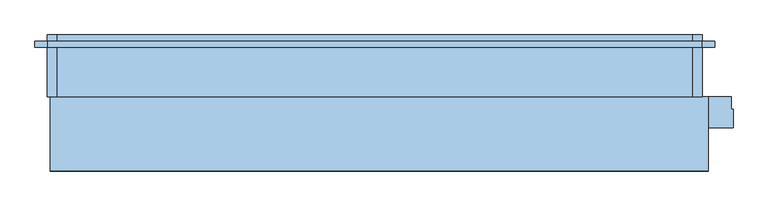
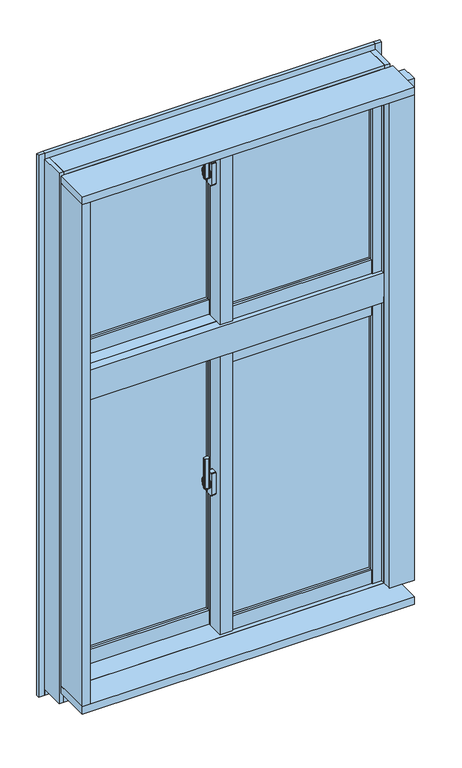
"""IFC4 building model written with IfcOpenShell, lengths in millimetres: window geometry, FNSⅡ100R_個別防火_面付枠_段窓 : 引違/引違."""

from ifc_helpers import new_model, si_unit, point, frame, frame_2d, origin, place, context, project, spatial, polyline, circle_curve, trimmed, segment, composite_curve, outline, extrude, faceted_brep, source, transform, mapped, element, save
from ifc_brep_helpers import plane_surface, cylinder_surface, revolved_surface, advanced_brep


def window_d672795f(model_context):
    return source(origin(), model_context, "Body", "SolidModel", [
        extrude(outline(composite_curve([segment(polyline([(-39.0, 34.6), (-39.0, 26.4)]), True, "CONTINUOUS"), segment(trimmed(circle_curve(frame_2d((-41.0, 26.4)), 2.0), [point((-39.0, 26.4))], [point((-41.3606557, 24.4327869))], False, "CARTESIAN"), True, "CONTINUOUS"), segment(polyline([(-41.3606557, 24.4327869), (-52.3606557, 26.4494536)]), True, "CONTINUOUS"), segment(trimmed(circle_curve(frame_2d((-52.0, 28.4166667)), 2.0), [point((-52.3606557, 26.4494536))], [point((-54.0, 28.4166667))], False, "CARTESIAN"), True, "CONTINUOUS"), segment(polyline([(-54.0, 28.4166667), (-54.0, 32.5833333)]), True, "CONTINUOUS"), segment(trimmed(circle_curve(frame_2d((-52.0, 32.5833333)), 2.0), [point((-54.0, 32.5833333))], [point((-52.3606557, 34.5505464))], False, "CARTESIAN"), True, "CONTINUOUS"), segment(polyline([(-52.3606557, 34.5505464), (-41.3606557, 36.5672131)]), True, "CONTINUOUS"), segment(trimmed(circle_curve(frame_2d((-41.0, 34.6)), 2.0), [point((-41.3606557, 36.5672131))], [point((-39.0, 34.6))], False, "CARTESIAN"), True, "CONTINUOUS")], self_intersect=False)), frame((0.0, 0.0, 2440.0), z_axis=(0.0, 0.0, 1.0), x_axis=(1.0, 0.0, 0.0)), (0.0, 0.0, 1.0), 100.0),
        advanced_brep(
        [(-37.5, 38.8234285, 2471.7333311), (-45.5, 38.8234285, 2471.7333311), (-45.5, 38.4351999, 2470.2844424), (-39.0, 38.4351999, 2470.2844424), (-39.0, 36.6234666, 2463.5229616), (-37.5, 36.6234666, 2463.5229616), (-39.0, 36.6466117, 2429.3190372), (-45.5, 36.6466117, 2429.3190372), (-45.5, 36.907084, 2427.8418256), (-37.5, 36.907084, 2427.8418256), (-37.5, 35.4310745, 2436.2126915), (-39.0, 35.4310745, 2436.2126915)],
        [
            (0, 1),
            (1, 2),
            (2, 3),
            (3, 4),
            (4, 5),
            (5, 0),
            (6, 7),
            (7, 8),
            (8, 9),
            (9, 10),
            (10, 11),
            (11, 6),
            (0, 9, circle_curve(frame((-37.5, 33.0, 2450.0), z_axis=(-1.0, 0.0, 0.0), x_axis=(0.0, 0.25881904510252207, 0.965925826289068)), 22.5)),
            (8, 1, circle_curve(frame((-45.5, 33.0, 2450.0), z_axis=(1.0, 0.0, 0.0), x_axis=(0.0, 0.25881904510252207, 0.965925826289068)), 22.5)),
            (7, 2, circle_curve(frame((-45.5, 33.0, 2450.0), z_axis=(1.0, 0.0, 0.0), x_axis=(0.0, 0.25881904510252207, 0.965925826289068)), 21.0)),
            (6, 3, circle_curve(frame((-39.0, 33.0, 2450.0), z_axis=(1.0, 0.0, 0.0), x_axis=(0.0, 0.25881904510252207, 0.965925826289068)), 21.0)),
            (11, 4, circle_curve(frame((-39.0, 33.0, 2450.0), z_axis=(-1.0, 0.0, 0.0), x_axis=(0.0, -1.0, 0.0)), 14.0)),
            (5, 10, circle_curve(frame((-37.5, 33.0, 2450.0), z_axis=(1.0, 0.0, 0.0), x_axis=(0.0, -1.0, 0.0)), 14.0)),
        ],
        [
            plane_surface(frame((-43.5470497, 33.0, 2450.0), z_axis=(0.0, -0.965925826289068, 0.25881904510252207), x_axis=(0.0, 0.25881904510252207, 0.965925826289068))),
            plane_surface(frame((-43.5470497, 33.0, 2450.0), z_axis=(0.0, -0.9848077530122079, -0.17364817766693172), x_axis=(0.0, 0.17364817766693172, -0.9848077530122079))),
            cylinder_surface(frame((-43.5470497, 33.0, 2450.0), z_axis=(-1.0, 0.0, 0.0), x_axis=(0.0, 0.25881904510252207, 0.965925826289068)), 22.5),
            plane_surface(frame((-45.5, 33.0, 2450.0), z_axis=(-1.0, 0.0, 0.0), x_axis=(0.0, 0.25881904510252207, 0.965925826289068))),
            revolved_surface(polyline([(-45.5, 38.43519994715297, 2470.2844423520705), (-39.0, 38.43519994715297, 2470.2844423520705)]), (-43.5470497, 33.0, 2450.0), (-1.0, 0.0, 0.0)),
            plane_surface(frame((-39.0, 33.0, 2450.0), z_axis=(-1.0, 0.0, 0.0), x_axis=(0.0, 0.25881904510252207, 0.965925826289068))),
            plane_surface(frame((-37.5, 33.0, 2450.0), z_axis=(1.0, 0.0, 0.0), x_axis=(0.0, 0.25881904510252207, 0.965925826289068))),
            cylinder_surface(frame((-37.5, 33.0, 2450.0), z_axis=(-1.0, 0.0, 0.0), x_axis=(0.0, -1.0, 0.0)), 14.0),
        ],
        [
            (0, [[1, 2, 3, 4, 5, 6]]),
            (1, [[7, 8, 9, 10, 11, 12]]),
            (2, [[-1, 13, -9, 14]]),
            (3, [[-2, -14, -8, 15]]),
            (4, [[-3, -15, -7, 16]]),
            (5, [[-16, -12, 17, -4]]),
            (6, [[-13, -6, 18, -10]]),
            (7, [[-17, -11, -18, -5]]),
        ],
    ),
        extrude(outline(composite_curve([segment(trimmed(circle_curve(frame_2d((33.0, 2450.0)), 11.5), [point((44.5, 2450.0))], [point((21.5, 2450.0))], False, "CARTESIAN"), True, "CONTINUOUS"), segment(trimmed(circle_curve(frame_2d((33.0, 2450.0)), 11.5), [point((21.5, 2450.0))], [point((44.5, 2450.0))], False, "CARTESIAN"), True, "CONTINUOUS")], self_intersect=False)), frame((-37.5, 0.0, 0.0), z_axis=(1.0, 0.0, 0.0), x_axis=(0.0, 1.0, 0.0)), (0.0, 0.0, 1.0), 2.5),
        extrude(outline(composite_curve([segment(polyline([(24.0, 2487.5), (42.0, 2487.5)]), True, "CONTINUOUS"), segment(trimmed(circle_curve(frame_2d((42.0, 2485.5)), 2.0), [point((42.0, 2487.5))], [point((44.0, 2485.5))], False, "CARTESIAN"), True, "CONTINUOUS"), segment(polyline([(44.0, 2485.5), (44.0, 2414.5)]), True, "CONTINUOUS"), segment(trimmed(circle_curve(frame_2d((42.0, 2414.5)), 2.0), [point((44.0, 2414.5))], [point((42.0, 2412.5))], False, "CARTESIAN"), True, "CONTINUOUS"), segment(polyline([(42.0, 2412.5), (24.0, 2412.5)]), True, "CONTINUOUS"), segment(trimmed(circle_curve(frame_2d((24.0, 2414.5)), 2.0), [point((24.0, 2412.5))], [point((22.0, 2414.5))], False, "CARTESIAN"), True, "CONTINUOUS"), segment(polyline([(22.0, 2414.5), (22.0, 2485.5)]), True, "CONTINUOUS"), segment(trimmed(circle_curve(frame_2d((24.0, 2485.5)), 2.0), [point((22.0, 2485.5))], [point((24.0, 2487.5))], False, "CARTESIAN"), True, "CONTINUOUS")], self_intersect=False)), frame((-35.0, 0.0, 0.0), z_axis=(1.0, 0.0, 0.0), x_axis=(0.0, 1.0, 0.0)), (0.0, 0.0, 1.0), 15.0),
        extrude(outline(polyline([(20.0, 24.0), (468.0, 24.0), (468.0, 18.0), (20.0, 18.0), (20.0, 24.0)])), frame((0.0, 0.0, 1998.0), z_axis=(0.0, 0.0, 1.0), x_axis=(1.0, 0.0, 0.0)), (0.0, 0.0, 1.0), 562.0),
        extrude(outline(polyline([(20.0, 42.0), (468.0, 42.0), (468.0, 36.0), (20.0, 36.0), (20.0, 42.0)])), frame((0.0, 0.0, 1998.0), z_axis=(0.0, 0.0, 1.0), x_axis=(1.0, 0.0, 0.0)), (0.0, 0.0, 1.0), 562.0),
        extrude(outline(polyline([(-468.0, 82.0), (-20.0, 82.0), (-20.0, 76.0), (-468.0, 76.0), (-468.0, 82.0)])), frame((0.0, 0.0, 1998.0), z_axis=(0.0, 0.0, 1.0), x_axis=(1.0, 0.0, 0.0)), (0.0, 0.0, 1.0), 562.0),
        extrude(outline(polyline([(-468.0, 100.0), (-20.0, 100.0), (-20.0, 94.0), (-468.0, 94.0), (-468.0, 100.0)])), frame((0.0, 0.0, 1998.0), z_axis=(0.0, 0.0, 1.0), x_axis=(1.0, 0.0, 0.0)), (0.0, 0.0, 1.0), 562.0),
        faceted_brep([(-500.0, 79.0, 2600.0), (-489.5, 79.0, 2600.0), (-489.5, 66.0, 2600.0), (-468.0, 66.0, 2600.0), (-468.0, 108.0, 2600.0), (-500.0, 108.0, 2600.0), (-468.0, 79.0, 1910.0), (-500.0, 79.0, 1910.0), (-500.0, 108.0, 1910.0), (-468.0, 108.0, 1910.0), (-468.0, 79.0, 1950.0), (-489.5, 79.0, 1950.0), (-489.5, 66.0, 1950.0), (-468.0, 66.0, 1950.0)], [[[0, 1, 2, 3, 4, 5]], [[6, 7, 8, 9]], [[1, 0, 7, 6, 10, 11]], [[2, 1, 11, 12]], [[3, 2, 12, 13]], [[4, 3, 13, 10, 6, 9]], [[5, 4, 9, 8]], [[7, 0, 5, 8]], [[11, 10, 13, 12]]]),
        faceted_brep([(-20.0, 65.5, 2600.0), (-1.8, 65.5, 2600.0), (-1.8, 53.1, 2600.0), (20.0, 53.1, 2600.0), (20.0, 108.0, 2600.0), (-20.0, 108.0, 2600.0), (-20.0, 108.0, 1910.0), (20.0, 108.0, 1910.0), (20.0, 79.0, 1910.0), (-20.0, 79.0, 1910.0), (-20.0, 65.5, 1950.0), (-1.8, 65.5, 1950.0), (-1.8, 53.1, 1950.0), (20.0, 53.1, 1950.0), (20.0, 79.0, 1950.0), (-20.0, 79.0, 1950.0)], [[[0, 1, 2, 3, 4, 5]], [[6, 7, 8, 9]], [[1, 0, 10, 11]], [[2, 1, 11, 12]], [[3, 2, 12, 13]], [[4, 3, 13, 14, 8, 7]], [[5, 4, 7, 6]], [[0, 5, 6, 9, 15, 10]], [[14, 15, 9, 8]], [[15, 14, 13, 12, 11, 10]]]),
        extrude(outline(polyline([(-20.0, 53.1), (-15.0, 53.1), (-15.0, 8.0), (15.0, 8.0), (15.0, 12.0), (20.0, 12.0), (20.0, 0.0), (-20.0, 0.0), (-20.0, 53.1)])), frame((0.0, 0.0, 1950.0), z_axis=(0.0, 0.0, 1.0), x_axis=(1.0, 0.0, 0.0)), (0.0, 0.0, 1.0), 650.0),
        extrude(outline(polyline([(-15.0, 53.1), (20.0, 53.1), (20.0, 12.0), (15.0, 12.0), (15.0, 8.0), (-15.0, 8.0), (-15.0, 53.1)])), frame((0.0, 0.0, 1950.0), z_axis=(0.0, 0.0, 1.0), x_axis=(1.0, 0.0, 0.0)), (0.0, 0.0, 1.0), 650.0),
        extrude(outline(polyline([(468.0, 0.0), (468.0, 8.0), (489.5, 8.0), (489.5, 21.0), (497.0, 21.0), (497.0, 0.0), (468.0, 0.0)])), frame((0.0, 0.0, 1953.0), z_axis=(0.0, 0.0, 1.0), x_axis=(1.0, 0.0, 0.0)), (0.0, 0.0, 1.0), 647.0),
        extrude(outline(polyline([(468.0, 50.0), (500.0, 50.0), (500.0, 21.0), (489.5, 21.0), (489.5, 8.0), (468.0, 8.0), (468.0, 50.0)])), frame((0.0, 0.0, 1950.0), z_axis=(0.0, 0.0, 1.0), x_axis=(1.0, 0.0, 0.0)), (0.0, 0.0, 1.0), 650.0),
        extrude(outline(polyline([(-1.85, 65.5), (-1.85, 58.0), (-20.0, 58.0), (-20.0, 65.5), (-1.85, 65.5)])), frame((0.0, 0.0, 1950.0), z_axis=(0.0, 0.0, 1.0), x_axis=(1.0, 0.0, 0.0)), (0.0, 0.0, 1.0), 650.0),
        extrude(outline(polyline([(-497.0, 79.0), (-489.5, 79.0), (-489.5, 66.0), (-468.0, 66.0), (-468.0, 58.0), (-497.0, 58.0), (-497.0, 79.0)])), frame((0.0, 0.0, 1950.0), z_axis=(0.0, 0.0, 1.0), x_axis=(1.0, 0.0, 0.0)), (0.0, 0.0, 1.0), 650.0),
        extrude(outline(polyline([(2.0, 1953.0), (2.0, 1998.0), (10.0, 1998.0), (10.0, 1975.5), (21.0, 1975.5), (21.0, 1953.0), (2.0, 1953.0)])), frame((20.0, 0.0, 0.0), z_axis=(1.0, 0.0, 0.0), x_axis=(0.0, 1.0, 0.0)), (0.0, 0.0, 1.0), 448.0),
        extrude(outline(polyline([(50.0, 1950.0), (21.0, 1950.0), (21.0, 1975.5), (10.0, 1975.5), (10.0, 1998.0), (50.0, 1998.0), (50.0, 1950.0)])), frame((20.0, 0.0, 0.0), z_axis=(1.0, 0.0, 0.0), x_axis=(0.0, 1.0, 0.0)), (0.0, 0.0, 1.0), 448.0),
        extrude(outline(polyline([(60.0, 1998.0), (68.0, 1998.0), (68.0, 1975.5), (79.0, 1975.5), (79.0, 1950.0), (60.0, 1950.0), (60.0, 1998.0)])), frame((-468.0, 0.0, 0.0), z_axis=(1.0, 0.0, 0.0), x_axis=(0.0, 1.0, 0.0)), (0.0, 0.0, 1.0), 448.0),
        extrude(outline(polyline([(108.0, 1910.0), (79.0, 1910.0), (79.0, 1975.5), (68.0, 1975.5), (68.0, 1998.0), (108.0, 1998.0), (108.0, 1910.0)])), frame((-468.0, 0.0, 0.0), z_axis=(1.0, 0.0, 0.0), x_axis=(0.0, 1.0, 0.0)), (0.0, 0.0, 1.0), 448.0),
        extrude(outline(polyline([(23.0, 2580.5), (10.0, 2580.5), (10.0, 2560.0), (2.0, 2560.0), (2.0, 2600.0), (23.0, 2600.0), (23.0, 2580.5)])), frame((20.0, 0.0, 0.0), z_axis=(1.0, 0.0, 0.0), x_axis=(0.0, 1.0, 0.0)), (0.0, 0.0, 1.0), 448.0),
        extrude(outline(polyline([(50.0, 2600.0), (50.0, 2560.0), (10.0, 2560.0), (10.0, 2580.5), (23.0, 2580.5), (23.0, 2600.0), (50.0, 2600.0)])), frame((20.0, 0.0, 0.0), z_axis=(1.0, 0.0, 0.0), x_axis=(0.0, 1.0, 0.0)), (0.0, 0.0, 1.0), 448.0),
        extrude(outline(polyline([(81.0, 2580.5), (68.0, 2580.5), (68.0, 2560.0), (60.0, 2560.0), (60.0, 2600.0), (81.0, 2600.0), (81.0, 2580.5)])), frame((-468.0, 0.0, 0.0), z_axis=(1.0, 0.0, 0.0), x_axis=(0.0, 1.0, 0.0)), (0.0, 0.0, 1.0), 448.0),
        extrude(outline(polyline([(108.0, 2600.0), (108.0, 2560.0), (68.0, 2560.0), (68.0, 2580.5), (81.0, 2580.5), (81.0, 2600.0), (108.0, 2600.0)])), frame((-468.0, 0.0, 0.0), z_axis=(1.0, 0.0, 0.0), x_axis=(0.0, 1.0, 0.0)), (0.0, 0.0, 1.0), 448.0),
        faceted_brep([(500.0, -10.0, 900.0), (500.0, 14.5, 900.0), (515.0, 14.5, 900.0), (515.0, 10.0, 900.0), (503.0, 10.0, 900.0), (503.0, -10.0, 900.0), (500.0, -10.0, 1870.0), (500.0, 14.5, 1870.0), (515.0, 14.5, 1870.0), (515.0, 10.0, 1870.0), (503.0, 10.0, 1870.0), (503.0, -10.0, 1870.0)], [[[0, 1, 2, 3, 4, 5]], [[1, 0, 6, 7]], [[2, 1, 7, 8]], [[3, 2, 8, 9]], [[4, 3, 9, 10]], [[5, 4, 10, 11]], [[0, 5, 11, 6]], [[6, 11, 10, 9, 8, 7]]]),
        faceted_brep([(500.0, 10.0, 2620.0), (500.0, 14.5, 2620.0), (500.0, 14.5, 1950.0), (500.0, -10.0, 1950.0), (500.0, -10.0, 2603.0), (500.0, 10.0, 2603.0), (515.0, 14.5, 2620.0), (515.0, 14.5, 1950.0), (515.0, 10.0, 2620.0), (515.0, 10.0, 1950.0), (503.0, 10.0, 2603.0), (503.0, 10.0, 1950.0), (503.0, -10.0, 2603.0), (503.0, -10.0, 1950.0)], [[[0, 1, 2, 3, 4, 5]], [[1, 6, 7, 2]], [[6, 8, 9, 7]], [[5, 10, 11, 9, 8, 0]], [[10, 12, 13, 11]], [[12, 4, 3, 13]], [[8, 6, 1, 0]], [[10, 5, 4, 12]], [[13, 3, 2, 7, 9, 11]]]),
        faceted_brep([(515.0, 110.0, 840.0), (515.0, 110.0, 849.0), (515.0, 76.0, 849.0), (515.0, 76.0, 884.0), (515.0, 10.0, 884.0), (515.0, 10.0, 840.0), (-515.0, 110.0, 840.0), (-515.0, 110.0, 849.0), (-515.0, 76.0, 849.0), (-515.0, 76.0, 884.0), (-515.0, 10.0, 884.0), (500.0, 37.25, 884.0), (500.0, 18.8, 884.0), (-15.0, 18.8, 884.0), (-15.0, 37.25, 884.0), (-515.0, 10.0, 840.0), (500.0, 18.8, 900.0), (500.0, 37.25, 900.0), (-15.0, 18.8, 900.0), (-15.0, 37.25, 900.0)], [[[0, 1, 2, 3, 4, 5]], [[1, 0, 6, 7]], [[2, 1, 7, 8]], [[3, 2, 8, 9]], [[4, 3, 9, 10], [11, 12, 13, 14]], [[5, 4, 10, 15]], [[0, 5, 15, 6]], [[6, 15, 10, 9, 8, 7]], [[16, 12, 11, 17]], [[12, 16, 18, 13]], [[18, 19, 14, 13]], [[17, 11, 14, 19]], [[16, 17, 19, 18]]]),
        faceted_brep([(500.0, 18.8, 1950.0), (500.0, 18.8, 1934.0), (500.0, 37.25, 1934.0), (500.0, 37.25, 1950.0), (-15.0, 18.8, 1950.0), (-15.0, 37.25, 1950.0), (-15.0, 37.25, 1934.0), (-15.0, 18.8, 1934.0)], [[[0, 1, 2, 3]], [[4, 5, 6, 7]], [[1, 0, 4, 7]], [[2, 1, 7, 6]], [[3, 2, 6, 5]], [[0, 3, 5, 4]]]),
        faceted_brep([(-515.0, 10.0, 900.0), (-515.0, 76.0, 900.0), (-500.0, 76.0, 900.0), (-500.0, -10.0, 900.0), (-503.0, -10.0, 900.0), (-503.0, 10.0, 900.0), (-515.0, 10.0, 1870.0), (-515.0, 76.0, 1870.0), (-500.0, 76.0, 1870.0), (-500.0, -10.0, 1870.0), (-503.0, -10.0, 1870.0), (-503.0, 10.0, 1870.0)], [[[0, 1, 2, 3, 4, 5]], [[1, 0, 6, 7]], [[2, 1, 7, 8]], [[3, 2, 8, 9]], [[4, 3, 9, 10]], [[5, 4, 10, 11]], [[0, 5, 11, 6]], [[6, 11, 10, 9, 8, 7]]]),
        faceted_brep([(-515.0, 10.0, 2620.0), (-515.0, 76.0, 2620.0), (-515.0, 76.0, 1950.0), (-515.0, 10.0, 1950.0), (-500.0, 76.0, 2620.0), (-500.0, 76.0, 1950.0), (-500.0, 10.0, 2620.0), (-500.0, 10.0, 2603.0), (-500.0, -10.0, 2603.0), (-500.0, -10.0, 1950.0), (-503.0, -10.0, 2603.0), (-503.0, -10.0, 1950.0), (-503.0, 10.0, 2603.0), (-503.0, 10.0, 1950.0)], [[[0, 1, 2, 3]], [[1, 4, 5, 2]], [[4, 6, 7, 8, 9, 5]], [[8, 10, 11, 9]], [[10, 12, 13, 11]], [[12, 7, 6, 0, 3, 13]], [[4, 1, 0, 6]], [[7, 12, 10, 8]], [[13, 3, 2, 5, 9, 11]]]),
        faceted_brep([(-530.0, 110.0, 840.0), (-515.0, 110.0, 840.0), (-515.0, 10.0, 840.0), (-530.0, 10.0, 840.0), (-530.0, 110.0, 2635.0), (-515.0, 110.0, 2635.0), (-515.0, 110.0, 2600.0), (-500.0, 110.0, 2600.0), (-500.0, 110.0, 1899.0), (-515.0, 110.0, 1899.0), (-515.0, 110.0, 1850.0), (-500.0, 110.0, 1850.0), (-500.0, 110.0, 849.0), (-515.0, 110.0, 849.0), (-515.0, 10.0, 2635.0), (-515.0, 76.0, 849.0), (-515.0, 76.0, 1850.0), (-515.0, 76.0, 1899.0), (-515.0, 76.0, 2600.0), (-530.0, 10.0, 2635.0), (-500.0, 76.0, 849.0), (-500.0, 76.0, 1850.0), (-500.0, 76.0, 2600.0), (-500.0, 76.0, 1899.0)], [[[0, 1, 2, 3]], [[4, 5, 6, 7, 8, 9, 10, 11, 12, 13, 1, 0]], [[5, 14, 2, 1, 13, 15, 16, 10, 9, 17, 18, 6]], [[14, 19, 3, 2]], [[19, 4, 0, 3]], [[12, 20, 15, 13]], [[21, 16, 15, 20]], [[11, 21, 20, 12]], [[4, 19, 14, 5]], [[11, 10, 16, 21]], [[7, 6, 18, 22]], [[8, 23, 17, 9]], [[22, 18, 17, 23]], [[7, 22, 23, 8]]]),
        faceted_brep([(515.0, 10.0, 840.0), (515.0, 110.0, 840.0), (530.0, 110.0, 840.0), (530.0, 10.0, 840.0), (515.0, 10.0, 2635.0), (515.0, 110.0, 2635.0), (515.0, 110.0, 2600.0), (515.0, 14.5, 2600.0), (515.0, 14.5, 1899.0), (515.0, 110.0, 1899.0), (515.0, 110.0, 1850.0), (515.0, 14.5, 1850.0), (515.0, 14.5, 849.0), (515.0, 110.0, 849.0), (530.0, 110.0, 2635.0), (500.0, 110.0, 849.0), (500.0, 110.0, 1850.0), (500.0, 110.0, 1899.0), (500.0, 110.0, 2600.0), (530.0, 10.0, 2635.0), (500.0, 14.5, 849.0), (500.0, 14.5, 1850.0), (500.0, 14.5, 2600.0), (500.0, 14.5, 1899.0)], [[[0, 1, 2, 3]], [[4, 5, 6, 7, 8, 9, 10, 11, 12, 13, 1, 0]], [[5, 14, 2, 1, 13, 15, 16, 10, 9, 17, 18, 6]], [[14, 19, 3, 2]], [[19, 4, 0, 3]], [[20, 15, 13, 12]], [[21, 16, 15, 20]], [[11, 21, 20, 12]], [[4, 19, 14, 5]], [[21, 11, 10, 16]], [[22, 7, 6, 18]], [[23, 17, 9, 8]], [[7, 22, 23, 8]], [[22, 18, 17, 23]]]),
        faceted_brep([(503.0, -10.0, 900.0), (503.0, -10.0, 897.0), (503.0, 10.0, 897.0), (503.0, 10.0, 884.0), (503.0, 14.5, 884.0), (503.0, 14.5, 900.0), (-503.0, 10.0, 884.0), (-503.0, 10.0, 897.0), (-503.0, -10.0, 897.0), (-503.0, -10.0, 900.0), (-503.0, 18.8, 900.0), (-503.0, 18.8, 884.0), (500.0, 14.5, 900.0), (500.0, 18.8, 900.0), (-15.0, 18.8, 900.0), (-15.0, 76.0, 900.0), (-500.0, 76.0, 900.0), (-500.0, 18.8, 900.0), (-500.0, 18.8, 884.0), (500.0, 18.8, 884.0), (-15.0, 18.8, 884.0), (-500.0, 76.0, 884.0), (-15.0, 76.0, 884.0), (500.0, 14.5, 884.0)], [[[0, 1, 2, 3, 4, 5]], [[6, 7, 8, 9, 10, 11]], [[3, 2, 7, 6]], [[2, 1, 8, 7]], [[1, 0, 9, 8]], [[10, 9, 0, 5, 12, 13, 14, 15, 16, 17]], [[11, 10, 17, 18]], [[13, 19, 20, 14]], [[6, 11, 18, 21, 22, 20, 19, 23, 4, 3]], [[12, 23, 19, 13]], [[23, 12, 5, 4]], [[15, 14, 20, 22]], [[16, 21, 18, 17]], [[15, 22, 21, 16]]]),
        faceted_brep([(500.0, 31.9, 2600.0), (500.0, 31.9, 2625.0), (500.0, 10.0, 2625.0), (500.0, 10.0, 2603.0), (500.0, -10.0, 2603.0), (500.0, -10.0, 2600.0), (-500.0, 31.9, 2600.0), (-500.0, -10.0, 2600.0), (-500.0, -10.0, 2603.0), (-500.0, 10.0, 2603.0), (-500.0, 10.0, 2625.0), (-500.0, 31.9, 2625.0)], [[[0, 1, 2, 3, 4, 5]], [[6, 7, 8, 9, 10, 11]], [[1, 0, 6, 11]], [[2, 1, 11, 10]], [[3, 2, 10, 9]], [[4, 3, 9, 8]], [[5, 4, 8, 7]], [[0, 5, 7, 6]]]),
        faceted_brep([(500.0, 31.9, 1875.0), (500.0, 10.0, 1875.0), (500.0, 10.0, 1934.0), (500.0, 18.8, 1934.0), (500.0, 18.8, 1950.0), (500.0, -10.0, 1950.0), (500.0, -10.0, 1870.0), (500.0, -10.0, 1850.0), (500.0, 31.9, 1850.0), (500.0, 31.9, 1870.0), (-500.0, 31.9, 1850.0), (-500.0, -10.0, 1850.0), (-500.0, -10.0, 1870.0), (-500.0, -10.0, 1950.0), (-500.0, 18.8, 1950.0), (-500.0, 18.8, 1934.0), (-500.0, 10.0, 1934.0), (-500.0, 10.0, 1875.0), (-500.0, 31.9, 1875.0), (-500.0, 31.9, 1870.0)], [[[0, 1, 2, 3, 4, 5, 6, 7, 8, 9]], [[10, 11, 12, 13, 14, 15, 16, 17, 18, 19]], [[8, 10, 19, 18, 0, 9]], [[1, 0, 18, 17]], [[5, 13, 12, 11, 7, 6]], [[8, 7, 11, 10]], [[2, 1, 17, 16]], [[3, 2, 16, 15]], [[4, 3, 15, 14]], [[5, 4, 14, 13]]]),
        extrude(outline(polyline([(-15.0, 80.3), (-15.0, 31.9), (-500.0, 31.9), (-500.0, 80.3), (-15.0, 80.3)])), frame((0.0, 0.0, 2600.0), z_axis=(0.0, 0.0, 1.0), x_axis=(1.0, 0.0, 0.0)), (0.0, 0.0, 1.0), 25.0),
        extrude(outline(polyline([(-15.0, 76.0), (-15.0, 18.8), (-500.0, 18.8), (-500.0, 76.0), (-15.0, 76.0)])), frame((0.0, 0.0, 1934.0), z_axis=(0.0, 0.0, 1.0), x_axis=(1.0, 0.0, 0.0)), (0.0, 0.0, 1.0), 16.0),
        extrude(outline(polyline([(-15.0, 80.3), (-15.0, 31.9), (-500.0, 31.9), (-500.0, 80.3), (-15.0, 80.3)])), frame((0.0, 0.0, 1850.0), z_axis=(0.0, 0.0, 1.0), x_axis=(1.0, 0.0, 0.0)), (0.0, 0.0, 1.0), 25.0),
        faceted_brep([(515.0, 110.0, 2600.0), (515.0, 110.0, 2635.0), (515.0, 10.0, 2635.0), (515.0, 10.0, 2625.0), (515.0, 80.3, 2625.0), (515.0, 80.3, 2600.0), (-515.0, 110.0, 2600.0), (-515.0, 80.3, 2600.0), (-515.0, 80.3, 2625.0), (-515.0, 10.0, 2625.0), (-515.0, 10.0, 2635.0), (-515.0, 110.0, 2635.0), (-15.0, 80.3, 2625.0), (-15.0, 31.9, 2625.0), (500.0, 31.9, 2625.0), (500.0, 80.3, 2625.0), (500.0, 80.3, 2600.0), (-15.0, 80.3, 2600.0), (500.0, 31.9, 2600.0), (-15.0, 31.9, 2600.0)], [[[0, 1, 2, 3, 4, 5]], [[6, 7, 8, 9, 10, 11]], [[1, 0, 6, 11]], [[2, 1, 11, 10]], [[3, 2, 10, 9]], [[4, 3, 9, 8, 12, 13, 14, 15]], [[5, 4, 15, 16]], [[8, 7, 17, 12]], [[0, 5, 16, 18, 19, 17, 7, 6]], [[14, 18, 16, 15]], [[17, 19, 13, 12]], [[18, 14, 13, 19]]]),
        faceted_brep([(515.0, 110.0, 1850.0), (515.0, 110.0, 1899.0), (515.0, 76.0, 1899.0), (515.0, 76.0, 1934.0), (515.0, 10.0, 1934.0), (515.0, 10.0, 1875.0), (515.0, 80.3, 1875.0), (515.0, 80.3, 1850.0), (-515.0, 110.0, 1850.0), (-515.0, 80.3, 1850.0), (-515.0, 80.3, 1875.0), (-515.0, 10.0, 1875.0), (-515.0, 10.0, 1934.0), (-515.0, 76.0, 1934.0), (-515.0, 76.0, 1899.0), (-515.0, 110.0, 1899.0), (500.0, 31.9, 1850.0), (500.0, 80.3, 1850.0), (500.0, 80.3, 1870.0), (500.0, 80.3, 1875.0), (500.0, 31.9, 1875.0), (500.0, 31.9, 1870.0), (-15.0, 80.3, 1850.0), (-15.0, 31.9, 1850.0), (-15.0, 31.9, 1875.0), (-15.0, 80.3, 1875.0)], [[[0, 1, 2, 3, 4, 5, 6, 7]], [[8, 9, 10, 11, 12, 13, 14, 15]], [[16, 17, 18, 19, 20, 21]], [[22, 23, 24, 25]], [[1, 0, 8, 15]], [[2, 1, 15, 14]], [[3, 2, 14, 13]], [[4, 3, 13, 12]], [[5, 4, 12, 11]], [[6, 5, 11, 10, 25, 24, 20, 19]], [[7, 6, 19, 18, 17]], [[10, 9, 22, 25]], [[0, 7, 17, 16, 23, 22, 9, 8]], [[24, 23, 16, 21, 20]]]),
        extrude(outline(composite_curve([segment(polyline([(-39.0, 34.6), (-39.0, 26.4)]), True, "CONTINUOUS"), segment(trimmed(circle_curve(frame_2d((-41.0, 26.4)), 2.0), [point((-39.0, 26.4))], [point((-41.3606557, 24.4327869))], False, "CARTESIAN"), True, "CONTINUOUS"), segment(polyline([(-41.3606557, 24.4327869), (-52.3606557, 26.4494536)]), True, "CONTINUOUS"), segment(trimmed(circle_curve(frame_2d((-52.0, 28.4166667)), 2.0), [point((-52.3606557, 26.4494536))], [point((-54.0, 28.4166667))], False, "CARTESIAN"), True, "CONTINUOUS"), segment(polyline([(-54.0, 28.4166667), (-54.0, 32.5833333)]), True, "CONTINUOUS"), segment(trimmed(circle_curve(frame_2d((-52.0, 32.5833333)), 2.0), [point((-54.0, 32.5833333))], [point((-52.3606557, 34.5505464))], False, "CARTESIAN"), True, "CONTINUOUS"), segment(polyline([(-52.3606557, 34.5505464), (-41.3606557, 36.5672131)]), True, "CONTINUOUS"), segment(trimmed(circle_curve(frame_2d((-41.0, 34.6)), 2.0), [point((-41.3606557, 36.5672131))], [point((-39.0, 34.6))], False, "CARTESIAN"), True, "CONTINUOUS")], self_intersect=False)), frame((0.0, 0.0, 1390.0), z_axis=(0.0, 0.0, 1.0), x_axis=(1.0, 0.0, 0.0)), (0.0, 0.0, 1.0), 100.0),
        advanced_brep(
        [(-37.5, 38.8234285, 1421.7333311), (-45.5, 38.8234285, 1421.7333311), (-45.5, 38.4351999, 1420.2844424), (-39.0, 38.4351999, 1420.2844424), (-39.0, 36.6234666, 1413.5229616), (-37.5, 36.6234666, 1413.5229616), (-39.0, 36.6466117, 1379.3190372), (-45.5, 36.6466117, 1379.3190372), (-45.5, 36.907084, 1377.8418256), (-37.5, 36.907084, 1377.8418256), (-37.5, 35.4310745, 1386.2126915), (-39.0, 35.4310745, 1386.2126915)],
        [
            (0, 1),
            (1, 2),
            (2, 3),
            (3, 4),
            (4, 5),
            (5, 0),
            (6, 7),
            (7, 8),
            (8, 9),
            (9, 10),
            (10, 11),
            (11, 6),
            (0, 9, circle_curve(frame((-37.5, 33.0, 1400.0), z_axis=(-1.0, 0.0, 0.0), x_axis=(0.0, 0.25881904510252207, 0.965925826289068)), 22.5)),
            (8, 1, circle_curve(frame((-45.5, 33.0, 1400.0), z_axis=(1.0, 0.0, 0.0), x_axis=(0.0, 0.25881904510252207, 0.965925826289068)), 22.5)),
            (7, 2, circle_curve(frame((-45.5, 33.0, 1400.0), z_axis=(1.0, 0.0, 0.0), x_axis=(0.0, 0.25881904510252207, 0.965925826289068)), 21.0)),
            (6, 3, circle_curve(frame((-39.0, 33.0, 1400.0), z_axis=(1.0, 0.0, 0.0), x_axis=(0.0, 0.25881904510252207, 0.965925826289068)), 21.0)),
            (11, 4, circle_curve(frame((-39.0, 33.0, 1400.0), z_axis=(-1.0, 0.0, 0.0), x_axis=(0.0, -1.0, 0.0)), 14.0)),
            (5, 10, circle_curve(frame((-37.5, 33.0, 1400.0), z_axis=(1.0, 0.0, 0.0), x_axis=(0.0, -1.0, 0.0)), 14.0)),
        ],
        [
            plane_surface(frame((-43.5470497, 33.0, 1400.0), z_axis=(0.0, -0.965925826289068, 0.25881904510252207), x_axis=(0.0, 0.25881904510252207, 0.965925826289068))),
            plane_surface(frame((-43.5470497, 33.0, 1400.0), z_axis=(0.0, -0.9848077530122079, -0.17364817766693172), x_axis=(0.0, 0.17364817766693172, -0.9848077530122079))),
            cylinder_surface(frame((-43.5470497, 33.0, 1400.0), z_axis=(-1.0, 0.0, 0.0), x_axis=(0.0, 0.25881904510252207, 0.965925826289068)), 22.5),
            plane_surface(frame((-45.5, 33.0, 1400.0), z_axis=(-1.0, 0.0, 0.0), x_axis=(0.0, 0.25881904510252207, 0.965925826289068))),
            revolved_surface(polyline([(-45.5, 38.43519994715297, 1420.2844423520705), (-39.0, 38.43519994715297, 1420.2844423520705)]), (-43.5470497, 33.0, 1400.0), (-1.0, 0.0, 0.0)),
            plane_surface(frame((-39.0, 33.0, 1400.0), z_axis=(-1.0, 0.0, 0.0), x_axis=(0.0, 0.25881904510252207, 0.965925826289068))),
            plane_surface(frame((-37.5, 33.0, 1400.0), z_axis=(1.0, 0.0, 0.0), x_axis=(0.0, 0.25881904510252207, 0.965925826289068))),
            cylinder_surface(frame((-37.5, 33.0, 1400.0), z_axis=(-1.0, 0.0, 0.0), x_axis=(0.0, -1.0, 0.0)), 14.0),
        ],
        [
            (0, [[1, 2, 3, 4, 5, 6]]),
            (1, [[7, 8, 9, 10, 11, 12]]),
            (2, [[-1, 13, -9, 14]]),
            (3, [[-2, -14, -8, 15]]),
            (4, [[-3, -15, -7, 16]]),
            (5, [[-16, -12, 17, -4]]),
            (6, [[-13, -6, 18, -10]]),
            (7, [[-17, -11, -18, -5]]),
        ],
    ),
        extrude(outline(composite_curve([segment(trimmed(circle_curve(frame_2d((33.0, 1400.0)), 11.5), [point((44.5, 1400.0))], [point((21.5, 1400.0))], False, "CARTESIAN"), True, "CONTINUOUS"), segment(trimmed(circle_curve(frame_2d((33.0, 1400.0)), 11.5), [point((21.5, 1400.0))], [point((44.5, 1400.0))], False, "CARTESIAN"), True, "CONTINUOUS")], self_intersect=False)), frame((-37.5, 0.0, 0.0), z_axis=(1.0, 0.0, 0.0), x_axis=(0.0, 1.0, 0.0)), (0.0, 0.0, 1.0), 2.5),
        extrude(outline(composite_curve([segment(polyline([(24.0, 1437.5), (42.0, 1437.5)]), True, "CONTINUOUS"), segment(trimmed(circle_curve(frame_2d((42.0, 1435.5)), 2.0), [point((42.0, 1437.5))], [point((44.0, 1435.5))], False, "CARTESIAN"), True, "CONTINUOUS"), segment(polyline([(44.0, 1435.5), (44.0, 1364.5)]), True, "CONTINUOUS"), segment(trimmed(circle_curve(frame_2d((42.0, 1364.5)), 2.0), [point((44.0, 1364.5))], [point((42.0, 1362.5))], False, "CARTESIAN"), True, "CONTINUOUS"), segment(polyline([(42.0, 1362.5), (24.0, 1362.5)]), True, "CONTINUOUS"), segment(trimmed(circle_curve(frame_2d((24.0, 1364.5)), 2.0), [point((24.0, 1362.5))], [point((22.0, 1364.5))], False, "CARTESIAN"), True, "CONTINUOUS"), segment(polyline([(22.0, 1364.5), (22.0, 1435.5)]), True, "CONTINUOUS"), segment(trimmed(circle_curve(frame_2d((24.0, 1435.5)), 2.0), [point((22.0, 1435.5))], [point((24.0, 1437.5))], False, "CARTESIAN"), True, "CONTINUOUS")], self_intersect=False)), frame((-35.0, 0.0, 0.0), z_axis=(1.0, 0.0, 0.0), x_axis=(0.0, 1.0, 0.0)), (0.0, 0.0, 1.0), 15.0),
        extrude(outline(polyline([(20.0, 24.0), (468.0, 24.0), (468.0, 18.0), (20.0, 18.0), (20.0, 24.0)])), frame((0.0, 0.0, 948.0), z_axis=(0.0, 0.0, 1.0), x_axis=(1.0, 0.0, 0.0)), (0.0, 0.0, 1.0), 862.0),
        extrude(outline(polyline([(20.0, 42.0), (468.0, 42.0), (468.0, 36.0), (20.0, 36.0), (20.0, 42.0)])), frame((0.0, 0.0, 948.0), z_axis=(0.0, 0.0, 1.0), x_axis=(1.0, 0.0, 0.0)), (0.0, 0.0, 1.0), 862.0),
        extrude(outline(polyline([(-468.0, 82.0), (-20.0, 82.0), (-20.0, 76.0), (-468.0, 76.0), (-468.0, 82.0)])), frame((0.0, 0.0, 948.0), z_axis=(0.0, 0.0, 1.0), x_axis=(1.0, 0.0, 0.0)), (0.0, 0.0, 1.0), 862.0),
        extrude(outline(polyline([(-468.0, 100.0), (-20.0, 100.0), (-20.0, 94.0), (-468.0, 94.0), (-468.0, 100.0)])), frame((0.0, 0.0, 948.0), z_axis=(0.0, 0.0, 1.0), x_axis=(1.0, 0.0, 0.0)), (0.0, 0.0, 1.0), 862.0),
        faceted_brep([(-500.0, 79.0, 1850.0), (-489.5, 79.0, 1850.0), (-489.5, 66.0, 1850.0), (-468.0, 66.0, 1850.0), (-468.0, 108.0, 1850.0), (-500.0, 108.0, 1850.0), (-468.0, 79.0, 860.0), (-500.0, 79.0, 860.0), (-500.0, 108.0, 860.0), (-468.0, 108.0, 860.0), (-468.0, 79.0, 900.0), (-489.5, 79.0, 900.0), (-489.5, 66.0, 900.0), (-468.0, 66.0, 900.0)], [[[0, 1, 2, 3, 4, 5]], [[6, 7, 8, 9]], [[1, 0, 7, 6, 10, 11]], [[2, 1, 11, 12]], [[3, 2, 12, 13]], [[4, 3, 13, 10, 6, 9]], [[5, 4, 9, 8]], [[7, 0, 5, 8]], [[11, 10, 13, 12]]]),
        faceted_brep([(-20.0, 65.5, 1850.0), (-1.8, 65.5, 1850.0), (-1.8, 53.1, 1850.0), (20.0, 53.1, 1850.0), (20.0, 108.0, 1850.0), (-20.0, 108.0, 1850.0), (-20.0, 108.0, 860.0), (20.0, 108.0, 860.0), (20.0, 79.0, 860.0), (-20.0, 79.0, 860.0), (-20.0, 65.5, 900.0), (-1.8, 65.5, 900.0), (-1.8, 53.1, 900.0), (20.0, 53.1, 900.0), (20.0, 79.0, 900.0), (-20.0, 79.0, 900.0)], [[[0, 1, 2, 3, 4, 5]], [[6, 7, 8, 9]], [[1, 0, 10, 11]], [[2, 1, 11, 12]], [[3, 2, 12, 13]], [[4, 3, 13, 14, 8, 7]], [[5, 4, 7, 6]], [[0, 5, 6, 9, 15, 10]], [[14, 15, 9, 8]], [[15, 14, 13, 12, 11, 10]]]),
        extrude(outline(polyline([(-20.0, 53.1), (-15.0, 53.1), (-15.0, 8.0), (15.0, 8.0), (15.0, 12.0), (20.0, 12.0), (20.0, 0.0), (-20.0, 0.0), (-20.0, 53.1)])), frame((0.0, 0.0, 900.0), z_axis=(0.0, 0.0, 1.0), x_axis=(1.0, 0.0, 0.0)), (0.0, 0.0, 1.0), 950.0),
        extrude(outline(polyline([(-15.0, 53.1), (20.0, 53.1), (20.0, 12.0), (15.0, 12.0), (15.0, 8.0), (-15.0, 8.0), (-15.0, 53.1)])), frame((0.0, 0.0, 900.0), z_axis=(0.0, 0.0, 1.0), x_axis=(1.0, 0.0, 0.0)), (0.0, 0.0, 1.0), 950.0),
        extrude(outline(polyline([(468.0, 0.0), (468.0, 8.0), (489.5, 8.0), (489.5, 21.0), (497.0, 21.0), (497.0, 0.0), (468.0, 0.0)])), frame((0.0, 0.0, 903.0), z_axis=(0.0, 0.0, 1.0), x_axis=(1.0, 0.0, 0.0)), (0.0, 0.0, 1.0), 947.0),
        extrude(outline(polyline([(468.0, 50.0), (500.0, 50.0), (500.0, 21.0), (489.5, 21.0), (489.5, 8.0), (468.0, 8.0), (468.0, 50.0)])), frame((0.0, 0.0, 900.0), z_axis=(0.0, 0.0, 1.0), x_axis=(1.0, 0.0, 0.0)), (0.0, 0.0, 1.0), 950.0),
        extrude(outline(polyline([(-1.85, 65.5), (-1.85, 58.0), (-20.0, 58.0), (-20.0, 65.5), (-1.85, 65.5)])), frame((0.0, 0.0, 900.0), z_axis=(0.0, 0.0, 1.0), x_axis=(1.0, 0.0, 0.0)), (0.0, 0.0, 1.0), 950.0),
        extrude(outline(polyline([(-497.0, 79.0), (-489.5, 79.0), (-489.5, 66.0), (-468.0, 66.0), (-468.0, 58.0), (-497.0, 58.0), (-497.0, 79.0)])), frame((0.0, 0.0, 900.0), z_axis=(0.0, 0.0, 1.0), x_axis=(1.0, 0.0, 0.0)), (0.0, 0.0, 1.0), 950.0),
        extrude(outline(polyline([(2.0, 903.0), (2.0, 948.0), (10.0, 948.0), (10.0, 925.5), (21.0, 925.5), (21.0, 903.0), (2.0, 903.0)])), frame((20.0, 0.0, 0.0), z_axis=(1.0, 0.0, 0.0), x_axis=(0.0, 1.0, 0.0)), (0.0, 0.0, 1.0), 448.0),
        extrude(outline(polyline([(50.0, 900.0), (21.0, 900.0), (21.0, 925.5), (10.0, 925.5), (10.0, 948.0), (50.0, 948.0), (50.0, 900.0)])), frame((20.0, 0.0, 0.0), z_axis=(1.0, 0.0, 0.0), x_axis=(0.0, 1.0, 0.0)), (0.0, 0.0, 1.0), 448.0),
        extrude(outline(polyline([(60.0, 948.0), (68.0, 948.0), (68.0, 925.5), (79.0, 925.5), (79.0, 900.0), (60.0, 900.0), (60.0, 948.0)])), frame((-468.0, 0.0, 0.0), z_axis=(1.0, 0.0, 0.0), x_axis=(0.0, 1.0, 0.0)), (0.0, 0.0, 1.0), 448.0),
        extrude(outline(polyline([(108.0, 860.0), (79.0, 860.0), (79.0, 925.5), (68.0, 925.5), (68.0, 948.0), (108.0, 948.0), (108.0, 860.0)])), frame((-468.0, 0.0, 0.0), z_axis=(1.0, 0.0, 0.0), x_axis=(0.0, 1.0, 0.0)), (0.0, 0.0, 1.0), 448.0),
        extrude(outline(polyline([(23.0, 1830.5), (10.0, 1830.5), (10.0, 1810.0), (2.0, 1810.0), (2.0, 1850.0), (23.0, 1850.0), (23.0, 1830.5)])), frame((20.0, 0.0, 0.0), z_axis=(1.0, 0.0, 0.0), x_axis=(0.0, 1.0, 0.0)), (0.0, 0.0, 1.0), 448.0),
        extrude(outline(polyline([(50.0, 1850.0), (50.0, 1810.0), (10.0, 1810.0), (10.0, 1830.5), (23.0, 1830.5), (23.0, 1850.0), (50.0, 1850.0)])), frame((20.0, 0.0, 0.0), z_axis=(1.0, 0.0, 0.0), x_axis=(0.0, 1.0, 0.0)), (0.0, 0.0, 1.0), 448.0),
        extrude(outline(polyline([(81.0, 1830.5), (68.0, 1830.5), (68.0, 1810.0), (60.0, 1810.0), (60.0, 1850.0), (81.0, 1850.0), (81.0, 1830.5)])), frame((-468.0, 0.0, 0.0), z_axis=(1.0, 0.0, 0.0), x_axis=(0.0, 1.0, 0.0)), (0.0, 0.0, 1.0), 448.0),
        extrude(outline(polyline([(108.0, 1850.0), (108.0, 1810.0), (68.0, 1810.0), (68.0, 1830.5), (81.0, 1830.5), (81.0, 1850.0), (108.0, 1850.0)])), frame((-468.0, 0.0, 0.0), z_axis=(1.0, 0.0, 0.0), x_axis=(0.0, 1.0, 0.0)), (0.0, 0.0, 1.0), 448.0),
        extrude(outline(polyline([(-110.0, 900.0), (-10.0, 900.0), (-10.0, 897.0), (10.0, 897.0), (10.0, 875.0), (-110.0, 875.0), (-110.0, 900.0)])), frame((-525.0, 0.0, 0.0), z_axis=(1.0, 0.0, 0.0), x_axis=(0.0, 1.0, 0.0)), (0.0, 0.0, 1.0), 1065.0),
        extrude(outline(polyline([(-530.0, 90.0), (-530.0, 100.0), (530.0, 100.0), (530.0, 90.0), (-530.0, 90.0)])), frame((0.0, 0.0, 820.0), z_axis=(0.0, 0.0, 1.0), x_axis=(1.0, 0.0, 0.0)), (0.0, 0.0, 1.0), 20.0),
        extrude(outline(polyline([(-503.0, 10.0), (-503.0, -10.0), (-500.0, -10.0), (-500.0, -110.0), (-525.0, -110.0), (-525.0, 10.0), (-503.0, 10.0)])), frame((0.0, 0.0, 900.0), z_axis=(0.0, 0.0, 1.0), x_axis=(1.0, 0.0, 0.0)), (0.0, 0.0, 1.0), 1700.0),
        extrude(outline(polyline([(-550.0, 90.0), (-550.0, 100.0), (-530.0, 100.0), (-530.0, 90.0), (-550.0, 90.0)])), frame((0.0, 0.0, 820.0), z_axis=(0.0, 0.0, 1.0), x_axis=(1.0, 0.0, 0.0)), (0.0, 0.0, 1.0), 1835.0),
        extrude(outline(polyline([(550.0, 90.0), (530.0, 90.0), (530.0, 100.0), (550.0, 100.0), (550.0, 90.0)])), frame((0.0, 0.0, 820.0), z_axis=(0.0, 0.0, 1.0), x_axis=(1.0, 0.0, 0.0)), (0.0, 0.0, 1.0), 1835.0),
        extrude(outline(polyline([(503.0, -10.0), (503.0, 10.0), (577.0, 10.0), (577.0, -10.0), (580.0, -10.0), (580.0, -40.0), (500.0, -40.0), (500.0, -10.0), (503.0, -10.0)])), frame((0.0, 0.0, 900.0), z_axis=(0.0, 0.0, 1.0), x_axis=(1.0, 0.0, 0.0)), (0.0, 0.0, 1.0), 1700.0),
        extrude(outline(polyline([(-110.0, 2625.0), (10.0, 2625.0), (10.0, 2603.0), (-10.0, 2603.0), (-10.0, 2600.0), (-110.0, 2600.0), (-110.0, 2625.0)])), frame((-525.0, 0.0, 0.0), z_axis=(1.0, 0.0, 0.0), x_axis=(0.0, 1.0, 0.0)), (0.0, 0.0, 1.0), 1065.0),
        extrude(outline(polyline([(-530.0, 90.0), (-530.0, 100.0), (530.0, 100.0), (530.0, 90.0), (-530.0, 90.0)])), frame((0.0, 0.0, 2635.0), z_axis=(0.0, 0.0, 1.0), x_axis=(1.0, 0.0, 0.0)), (0.0, 0.0, 1.0), 20.0),
    ])


if __name__ == "__main__":
    model = new_model("IFC4")
    model_context = context("Model", 3, world=origin())
    ifc_project = project(units=[si_unit("LENGTHUNIT", "METRE", prefix="MILLI")], contexts=[model_context])
    site = spatial("IfcSite", under=ifc_project)
    building = spatial("IfcBuilding", under=site)
    placement = place(None, origin())
    window_shape = window_d672795f(model_context)
    element("IfcWindow", 1, ObjectType="FNSⅡ100R_個別防火_面付枠_段窓 : 引違/引違", at=placement, inside=building, context=model_context, shape_type="MappedRepresentation", body=[
        mapped(window_shape, transform((0.0, 0.0, 0.0), x_axis=(1.0, 0.0, 0.0), y_axis=(0.0, 1.0, 0.0), z_axis=(0.0, 0.0, 1.0))),
    ])
    save(model, "model.ifc")
